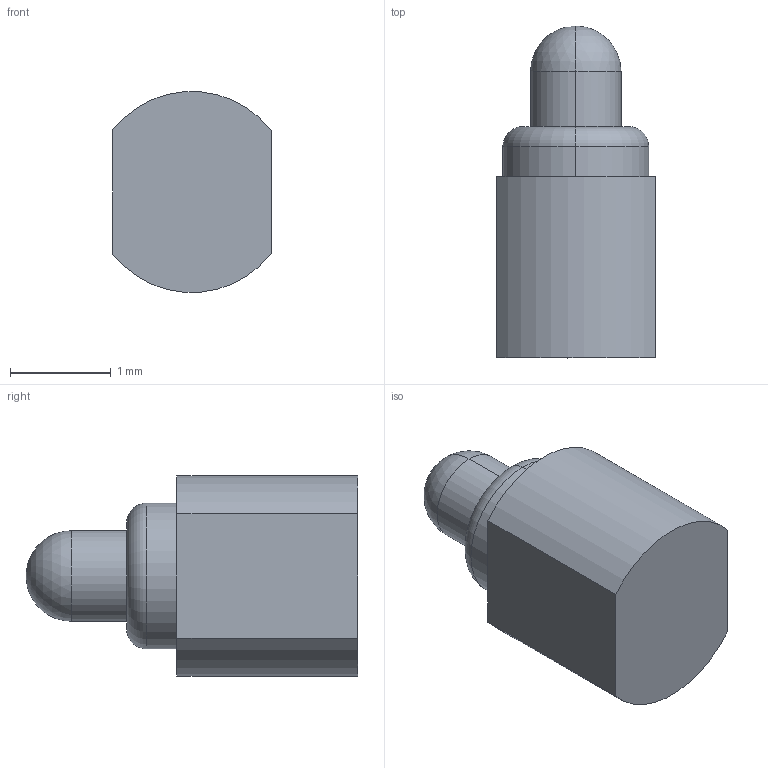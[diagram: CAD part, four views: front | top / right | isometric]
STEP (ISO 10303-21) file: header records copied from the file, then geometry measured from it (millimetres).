
FILE_DESCRIPTION((''),'2;1');
FILE_NAME('PRT0013','2023-06-01T13:54:50',('USER'),(''),'CREO PARAMETRIC BY PTC INC, 2020154','CREO PARAMETRIC BY PTC INC, 2020154','');
FILE_SCHEMA(('CONFIG_CONTROL_DESIGN'));
Length unit declared in the file: millimetre
Products named in the file (1): PRT0013
Bounding box: 1.58 x 3.3 x 1.99 mm (x, y, z)
Volume: 6.3 mm3; surface area: 20.6 mm2
Topology: 1 solids, 1 shells, 15 faces, 32 edges, 19 vertices
Faces by surface type: cylinder 6, plane 5, torus 2, sphere 2
Entity records: 436 total; most frequent: DIRECTION 78, CARTESIAN_POINT 64, ORIENTED_EDGE 60, AXIS2_PLACEMENT_3D 33, EDGE_CURVE 30, VERTEX_POINT 19, CIRCLE 18, EDGE_LOOP 17
